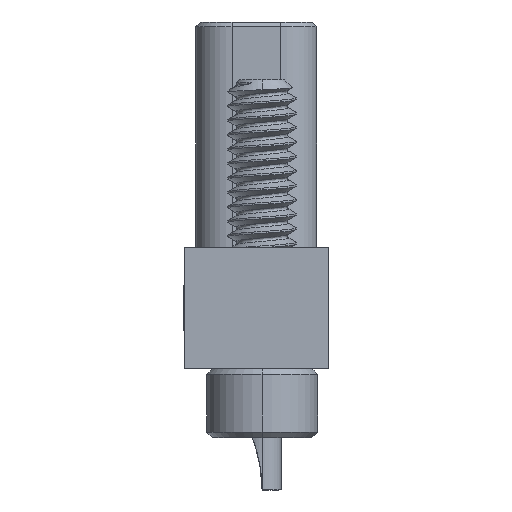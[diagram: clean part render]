
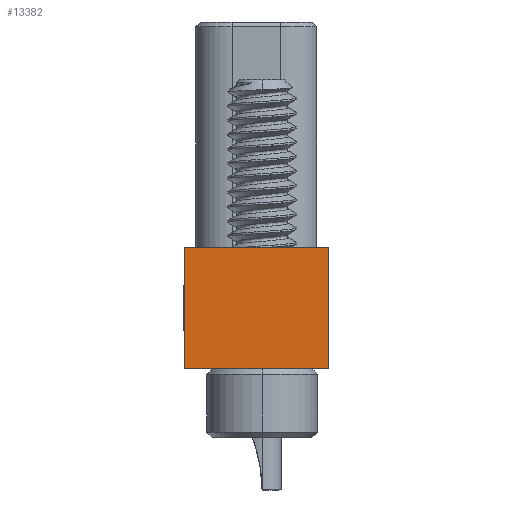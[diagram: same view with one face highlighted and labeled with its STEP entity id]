
A CAD part, left-side view. The second image highlights one B-rep face of the part: STEP entity #13382.
In plain terms, the highlighted planar face has unit normal (-1, 0, 0).
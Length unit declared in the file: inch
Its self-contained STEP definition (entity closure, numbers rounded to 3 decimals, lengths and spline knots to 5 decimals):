
#401 = CARTESIAN_POINT ( 'NONE',  ( -1.0675, -0.0625, -0.3 ) ) ;
#4019 = VERTEX_POINT ( 'NONE', #41629 ) ;
#4227 = VECTOR ( 'NONE', #48513, 39.37008 ) ;
#5292 = VERTEX_POINT ( 'NONE', #23733 ) ;
#6235 = DIRECTION ( 'NONE',  ( 0., 1., 0. ) ) ;
#6497 = FACE_OUTER_BOUND ( 'NONE', #45947, .T. ) ;
#6767 = PLANE ( 'NONE',  #14409 ) ;
#6937 = LINE ( 'NONE', #23532, #4227 ) ;
#8326 = ORIENTED_EDGE ( 'NONE', *, *, #23787, .T. ) ;
#11346 = DIRECTION ( 'NONE',  ( 0., 0., 1. ) ) ;
#11393 = DIRECTION ( 'NONE',  ( -1., 0., 0. ) ) ;
#11924 = VECTOR ( 'NONE', #21313, 39.37008 ) ;
#12382 = VERTEX_POINT ( 'NONE', #29052 ) ;
#12490 = EDGE_CURVE ( 'NONE', #4019, #12382, #32049, .T. ) ;
#13382 = ADVANCED_FACE ( 'NONE', ( #6497 ), #6767, .T. ) ;
#14409 = AXIS2_PLACEMENT_3D ( 'NONE', #52137, #11393, #31263 ) ;
#18343 = VERTEX_POINT ( 'NONE', #401 ) ;
#21313 = DIRECTION ( 'NONE',  ( 0., -1., 0. ) ) ;
#23532 = CARTESIAN_POINT ( 'NONE',  ( -1.0675, 0.0625, -0.3 ) ) ;
#23733 = CARTESIAN_POINT ( 'NONE',  ( -1.0675, 0.0625, -0.3 ) ) ;
#23787 = EDGE_CURVE ( 'NONE', #5292, #18343, #49393, .T. ) ;
#27503 = EDGE_CURVE ( 'NONE', #5292, #12382, #6937, .T. ) ;
#28593 = ORIENTED_EDGE ( 'NONE', *, *, #12490, .T. ) ;
#29052 = CARTESIAN_POINT ( 'NONE',  ( -1.0675, 0.0625, -0.195 ) ) ;
#30277 = VECTOR ( 'NONE', #11346, 39.37008 ) ;
#31263 = DIRECTION ( 'NONE',  ( 0., 0., 1. ) ) ;
#31470 = LINE ( 'NONE', #39566, #30277 ) ;
#31773 = CARTESIAN_POINT ( 'NONE',  ( -1.0675, -0.0625, -0.195 ) ) ;
#31780 = VECTOR ( 'NONE', #6235, 39.37008 ) ;
#32049 = LINE ( 'NONE', #31773, #31780 ) ;
#35281 = ORIENTED_EDGE ( 'NONE', *, *, #45770, .T. ) ;
#39566 = CARTESIAN_POINT ( 'NONE',  ( -1.0675, -0.0625, -0.3 ) ) ;
#41629 = CARTESIAN_POINT ( 'NONE',  ( -1.0675, -0.0625, -0.195 ) ) ;
#43593 = ORIENTED_EDGE ( 'NONE', *, *, #27503, .F. ) ;
#45286 = CARTESIAN_POINT ( 'NONE',  ( -1.0675, -0.0625, -0.3 ) ) ;
#45770 = EDGE_CURVE ( 'NONE', #18343, #4019, #31470, .T. ) ;
#45947 = EDGE_LOOP ( 'NONE', ( #35281, #28593, #43593, #8326 ) ) ;
#48513 = DIRECTION ( 'NONE',  ( 0., 0., 1. ) ) ;
#49393 = LINE ( 'NONE', #45286, #11924 ) ;
#52137 = CARTESIAN_POINT ( 'NONE',  ( -1.0675, -0.0625, -0.3 ) ) ;
